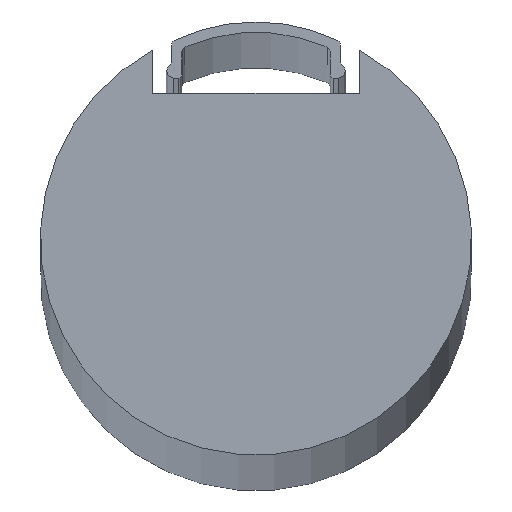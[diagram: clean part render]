
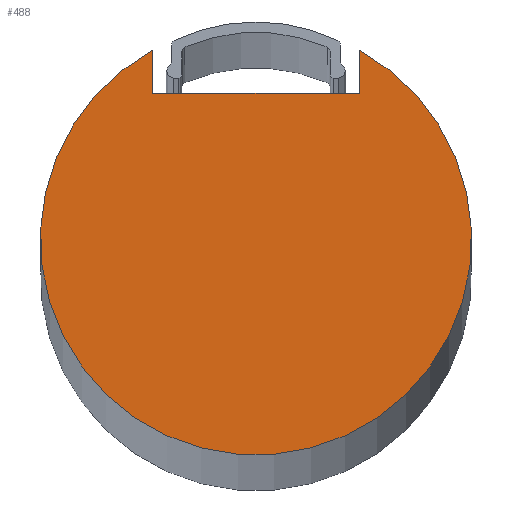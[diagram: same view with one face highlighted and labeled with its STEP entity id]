
A CAD part, top view. The second image highlights one B-rep face of the part: STEP entity #488.
In plain terms, the highlighted planar face has unit normal (0, 0, 1).
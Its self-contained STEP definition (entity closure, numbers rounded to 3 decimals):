
#53=FACE_OUTER_BOUND('',#79,.T.);
#79=EDGE_LOOP('',(#424,#425,#426,#427));
#105=CIRCLE('',#557,12.5);
#141=LINE('',#836,#181);
#143=LINE('',#840,#183);
#145=LINE('',#843,#185);
#181=VECTOR('',#697,10.);
#183=VECTOR('',#701,10.);
#185=VECTOR('',#705,10.);
#226=VERTEX_POINT('',#829);
#227=VERTEX_POINT('',#831);
#228=VERTEX_POINT('',#835);
#229=VERTEX_POINT('',#839);
#289=EDGE_CURVE('',#227,#226,#105,.T.);
#291=EDGE_CURVE('',#228,#227,#141,.T.);
#293=EDGE_CURVE('',#229,#228,#143,.T.);
#295=EDGE_CURVE('',#226,#229,#145,.T.);
#424=ORIENTED_EDGE('',*,*,#295,.T.);
#425=ORIENTED_EDGE('',*,*,#293,.T.);
#426=ORIENTED_EDGE('',*,*,#291,.T.);
#427=ORIENTED_EDGE('',*,*,#289,.T.);
#440=PLANE('',#561);
#488=ADVANCED_FACE('',(#53),#440,.T.);
#557=AXIS2_PLACEMENT_3D('',#832,#692,#693);
#561=AXIS2_PLACEMENT_3D('',#844,#706,#707);
#692=DIRECTION('center_axis',(0.,0.,1.));
#693=DIRECTION('ref_axis',(-0.48,0.877,0.));
#697=DIRECTION('',(0.,1.,0.));
#701=DIRECTION('',(-1.,0.,0.));
#705=DIRECTION('',(0.,-1.,0.));
#706=DIRECTION('center_axis',(0.,0.,1.));
#707=DIRECTION('ref_axis',(1.,0.,0.));
#829=CARTESIAN_POINT('',(6.,10.966,595.));
#831=CARTESIAN_POINT('',(-6.,10.966,595.));
#832=CARTESIAN_POINT('Origin',(0.,0.,595.));
#835=CARTESIAN_POINT('',(-6.,8.466,595.));
#836=CARTESIAN_POINT('',(-6.,8.466,595.));
#839=CARTESIAN_POINT('',(6.,8.466,595.));
#840=CARTESIAN_POINT('',(6.,8.466,595.));
#843=CARTESIAN_POINT('',(6.,10.966,595.));
#844=CARTESIAN_POINT('Origin',(0.,-0.767,595.));
